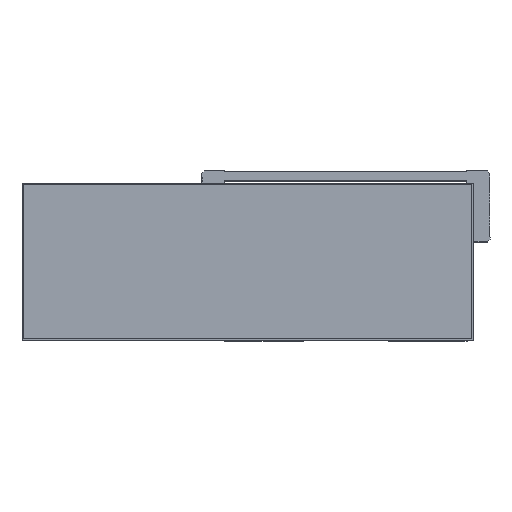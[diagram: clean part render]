
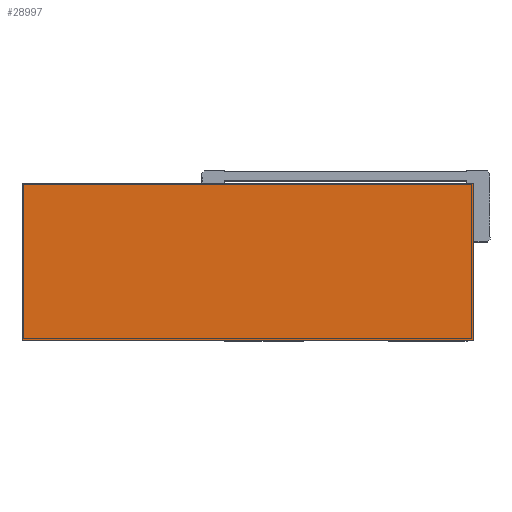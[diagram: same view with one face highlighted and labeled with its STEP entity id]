
A CAD part, top view. The second image highlights one B-rep face of the part: STEP entity #28997.
In plain terms, the highlighted planar face has unit normal (0, 0, 1).
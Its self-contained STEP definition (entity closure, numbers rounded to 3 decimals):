
#1951 = DIRECTION ( 'NONE',  ( 0., 1., 0. ) ) ;
#1970 = VECTOR ( 'NONE', #11194, 1000. ) ;
#2180 = EDGE_CURVE ( 'NONE', #30594, #4395, #15237, .T. ) ;
#2968 = LINE ( 'NONE', #4828, #17646 ) ;
#4395 = VERTEX_POINT ( 'NONE', #10735 ) ;
#4828 = CARTESIAN_POINT ( 'NONE',  ( 313., 0., 70. ) ) ;
#7774 = VECTOR ( 'NONE', #26346, 1000. ) ;
#8321 = CARTESIAN_POINT ( 'NONE',  ( 0., 0., 70. ) ) ;
#10735 = CARTESIAN_POINT ( 'NONE',  ( 313., 0., 70. ) ) ;
#11194 = DIRECTION ( 'NONE',  ( -1., 0., 0. ) ) ;
#11948 = EDGE_CURVE ( 'NONE', #4395, #22623, #2968, .T. ) ;
#12284 = FACE_OUTER_BOUND ( 'NONE', #20935, .T. ) ;
#13206 = ORIENTED_EDGE ( 'NONE', *, *, #2180, .T. ) ;
#14391 = CARTESIAN_POINT ( 'NONE',  ( 0., 0., 70. ) ) ;
#15237 = LINE ( 'NONE', #32753, #17932 ) ;
#15420 = EDGE_CURVE ( 'NONE', #22623, #19269, #24308, .T. ) ;
#16538 = EDGE_CURVE ( 'NONE', #19269, #30594, #30802, .T. ) ;
#16723 = ORIENTED_EDGE ( 'NONE', *, *, #11948, .T. ) ;
#17243 = ORIENTED_EDGE ( 'NONE', *, *, #15420, .T. ) ;
#17345 = DIRECTION ( 'NONE',  ( 0., 0., -1. ) ) ;
#17616 = ORIENTED_EDGE ( 'NONE', *, *, #16538, .T. ) ;
#17646 = VECTOR ( 'NONE', #1951, 1000. ) ;
#17932 = VECTOR ( 'NONE', #32527, 1000. ) ;
#19072 = CARTESIAN_POINT ( 'NONE',  ( 0., 109., 70. ) ) ;
#19269 = VERTEX_POINT ( 'NONE', #19072 ) ;
#20935 = EDGE_LOOP ( 'NONE', ( #17616, #13206, #16723, #17243 ) ) ;
#21093 = CARTESIAN_POINT ( 'NONE',  ( 313., 109., 70. ) ) ;
#22623 = VERTEX_POINT ( 'NONE', #21093 ) ;
#24308 = LINE ( 'NONE', #28536, #1970 ) ;
#26346 = DIRECTION ( 'NONE',  ( 0., -1., 0. ) ) ;
#28536 = CARTESIAN_POINT ( 'NONE',  ( 0., 109., 70. ) ) ;
#28997 = ADVANCED_FACE ( 'NONE', ( #12284 ), #31568, .F. ) ;
#29143 = CARTESIAN_POINT ( 'NONE',  ( 0., 0., 70. ) ) ;
#29458 = AXIS2_PLACEMENT_3D ( 'NONE', #14391, #17345, #37219 ) ;
#30594 = VERTEX_POINT ( 'NONE', #8321 ) ;
#30802 = LINE ( 'NONE', #29143, #7774 ) ;
#31568 = PLANE ( 'NONE',  #29458 ) ;
#32527 = DIRECTION ( 'NONE',  ( 1., 0., 0. ) ) ;
#32753 = CARTESIAN_POINT ( 'NONE',  ( 0., 0., 70. ) ) ;
#37219 = DIRECTION ( 'NONE',  ( -1., 0., 0. ) ) ;
